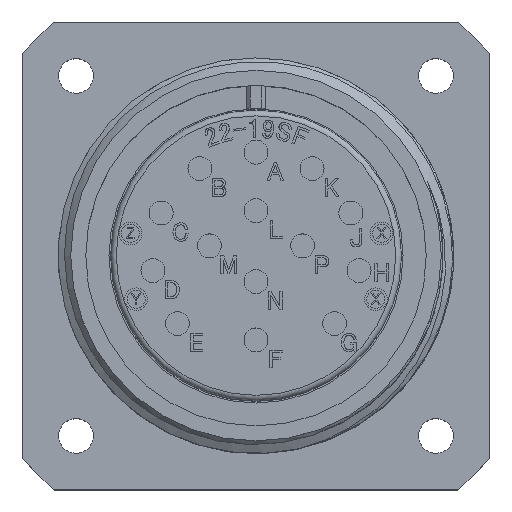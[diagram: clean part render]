
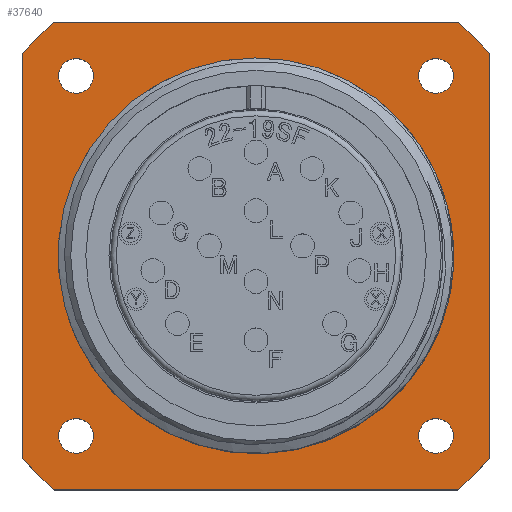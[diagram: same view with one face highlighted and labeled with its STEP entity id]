
A CAD part, top view. The second image highlights one B-rep face of the part: STEP entity #37640.
In plain terms, the highlighted planar face has unit normal (0, 0, 1).
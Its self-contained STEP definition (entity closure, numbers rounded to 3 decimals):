
#383 = CARTESIAN_POINT ( 'NONE',  ( 15.875, 15.875, -19.2 ) ) ;
#1135 = CARTESIAN_POINT ( 'NONE',  ( -15.875, 15.875, -19.2 ) ) ;
#1426 = EDGE_CURVE ( 'NONE', #39204, #32763, #25518, .T. ) ;
#1454 = CARTESIAN_POINT ( 'NONE',  ( 17.44, 0., -19.2 ) ) ;
#1479 = DIRECTION ( 'NONE',  ( -1., 0., 0. ) ) ;
#4427 = VERTEX_POINT ( 'NONE', #45448 ) ;
#4436 = CARTESIAN_POINT ( 'NONE',  ( -20.635, -20.635, -19.2 ) ) ;
#4905 = DIRECTION ( 'NONE',  ( 1., 0., 0. ) ) ;
#4949 = CIRCLE ( 'NONE', #26506, 1.525 ) ;
#5773 = CIRCLE ( 'NONE', #38820, 27.25 ) ;
#6157 = AXIS2_PLACEMENT_3D ( 'NONE', #22194, #41657, #41153 ) ;
#6360 = AXIS2_PLACEMENT_3D ( 'NONE', #383, #12071, #38855 ) ;
#6504 = DIRECTION ( 'NONE',  ( 0., 0., 1. ) ) ;
#7175 = CIRCLE ( 'NONE', #6360, 1.525 ) ;
#7516 = VERTEX_POINT ( 'NONE', #1454 ) ;
#7594 = CARTESIAN_POINT ( 'NONE',  ( -20.635, 17.798, -19.2 ) ) ;
#8206 = ORIENTED_EDGE ( 'NONE', *, *, #41245, .F. ) ;
#8441 = EDGE_CURVE ( 'NONE', #28426, #28426, #4949, .T. ) ;
#8755 = DIRECTION ( 'NONE',  ( 1., 0., 0. ) ) ;
#9524 = ORIENTED_EDGE ( 'NONE', *, *, #19678, .T. ) ;
#9543 = DIRECTION ( 'NONE',  ( 0., 0., -1. ) ) ;
#9577 = VERTEX_POINT ( 'NONE', #15892 ) ;
#10422 = EDGE_CURVE ( 'NONE', #44031, #44031, #37195, .T. ) ;
#10429 = ORIENTED_EDGE ( 'NONE', *, *, #24379, .T. ) ;
#11235 = EDGE_CURVE ( 'NONE', #29008, #29008, #7175, .T. ) ;
#11627 = ORIENTED_EDGE ( 'NONE', *, *, #44331, .T. ) ;
#11725 = EDGE_LOOP ( 'NONE', ( #12127 ) ) ;
#12001 = CARTESIAN_POINT ( 'NONE',  ( -14.35, 15.875, -19.2 ) ) ;
#12071 = DIRECTION ( 'NONE',  ( 0., 0., 1. ) ) ;
#12127 = ORIENTED_EDGE ( 'NONE', *, *, #11235, .F. ) ;
#12327 = ORIENTED_EDGE ( 'NONE', *, *, #1426, .F. ) ;
#12329 = CARTESIAN_POINT ( 'NONE',  ( 17.4, 15.875, -19.2 ) ) ;
#12596 = CARTESIAN_POINT ( 'NONE',  ( 0., 0., -19.2 ) ) ;
#12861 = EDGE_LOOP ( 'NONE', ( #49103 ) ) ;
#13899 = VERTEX_POINT ( 'NONE', #31390 ) ;
#14121 = CIRCLE ( 'NONE', #42148, 27.25 ) ;
#14251 = DIRECTION ( 'NONE',  ( 0., 1., 0. ) ) ;
#14410 = DIRECTION ( 'NONE',  ( 0., -1., 0. ) ) ;
#14583 = ORIENTED_EDGE ( 'NONE', *, *, #37602, .F. ) ;
#14856 = AXIS2_PLACEMENT_3D ( 'NONE', #16450, #27830, #4905 ) ;
#15309 = FACE_BOUND ( 'NONE', #12861, .T. ) ;
#15892 = CARTESIAN_POINT ( 'NONE',  ( 17.798, 20.635, -19.2 ) ) ;
#16450 = CARTESIAN_POINT ( 'NONE',  ( 0., 0., -19.2 ) ) ;
#16900 = CARTESIAN_POINT ( 'NONE',  ( 20.635, -17.798, -19.2 ) ) ;
#17512 = DIRECTION ( 'NONE',  ( 0., 0., -1. ) ) ;
#17752 = CARTESIAN_POINT ( 'NONE',  ( -20.635, 20.635, -19.2 ) ) ;
#18019 = CARTESIAN_POINT ( 'NONE',  ( 17.798, -20.635, -19.2 ) ) ;
#18178 = VERTEX_POINT ( 'NONE', #26718 ) ;
#18628 = LINE ( 'NONE', #4436, #36571 ) ;
#18934 = FACE_BOUND ( 'NONE', #11725, .T. ) ;
#19177 = VECTOR ( 'NONE', #14410, 1000. ) ;
#19189 = AXIS2_PLACEMENT_3D ( 'NONE', #1135, #27892, #31761 ) ;
#19678 = EDGE_CURVE ( 'NONE', #36644, #13899, #32777, .T. ) ;
#21526 = CARTESIAN_POINT ( 'NONE',  ( 0., 0., -19.2 ) ) ;
#21594 = VERTEX_POINT ( 'NONE', #18019 ) ;
#21844 = EDGE_LOOP ( 'NONE', ( #47239 ) ) ;
#21879 = DIRECTION ( 'NONE',  ( 1., 0., 0. ) ) ;
#21998 = VECTOR ( 'NONE', #14251, 1000. ) ;
#22194 = CARTESIAN_POINT ( 'NONE',  ( -15.875, -15.875, -19.2 ) ) ;
#22461 = ORIENTED_EDGE ( 'NONE', *, *, #48071, .F. ) ;
#22505 = FACE_BOUND ( 'NONE', #21844, .T. ) ;
#23065 = VECTOR ( 'NONE', #1479, 1000. ) ;
#23520 = ORIENTED_EDGE ( 'NONE', *, *, #8441, .F. ) ;
#23794 = EDGE_CURVE ( 'NONE', #31489, #31489, #37977, .T. ) ;
#24379 = EDGE_CURVE ( 'NONE', #4427, #21594, #18628, .T. ) ;
#24455 = DIRECTION ( 'NONE',  ( 1., 0., 0. ) ) ;
#24873 = DIRECTION ( 'NONE',  ( 1., 0., 0. ) ) ;
#25518 = CIRCLE ( 'NONE', #42756, 27.25 ) ;
#26144 = DIRECTION ( 'NONE',  ( 0., 0., 1. ) ) ;
#26506 = AXIS2_PLACEMENT_3D ( 'NONE', #40813, #6504, #21879 ) ;
#26718 = CARTESIAN_POINT ( 'NONE',  ( -20.635, -17.798, -19.2 ) ) ;
#26810 = CARTESIAN_POINT ( 'NONE',  ( 0., 0., -19.2 ) ) ;
#26941 = ORIENTED_EDGE ( 'NONE', *, *, #29113, .T. ) ;
#27508 = DIRECTION ( 'NONE',  ( 1., 0., 0. ) ) ;
#27830 = DIRECTION ( 'NONE',  ( 0., 0., 1. ) ) ;
#27892 = DIRECTION ( 'NONE',  ( 0., 0., 1. ) ) ;
#28426 = VERTEX_POINT ( 'NONE', #46681 ) ;
#29008 = VERTEX_POINT ( 'NONE', #12329 ) ;
#29113 = EDGE_CURVE ( 'NONE', #9577, #32763, #32059, .T. ) ;
#29989 = EDGE_LOOP ( 'NONE', ( #23520 ) ) ;
#31390 = CARTESIAN_POINT ( 'NONE',  ( 20.635, 17.798, -19.2 ) ) ;
#31489 = VERTEX_POINT ( 'NONE', #39592 ) ;
#31761 = DIRECTION ( 'NONE',  ( 1., 0., 0. ) ) ;
#32059 = LINE ( 'NONE', #43506, #23065 ) ;
#32070 = FACE_OUTER_BOUND ( 'NONE', #46845, .T. ) ;
#32328 = CARTESIAN_POINT ( 'NONE',  ( 0., 0., -19.2 ) ) ;
#32707 = FACE_BOUND ( 'NONE', #39133, .T. ) ;
#32763 = VERTEX_POINT ( 'NONE', #37769 ) ;
#32777 = LINE ( 'NONE', #40703, #21998 ) ;
#33539 = LINE ( 'NONE', #17752, #19177 ) ;
#34368 = ORIENTED_EDGE ( 'NONE', *, *, #23794, .F. ) ;
#35016 = AXIS2_PLACEMENT_3D ( 'NONE', #26810, #26144, #41907 ) ;
#35050 = CARTESIAN_POINT ( 'NONE',  ( 0., 0., -19.2 ) ) ;
#35063 = DIRECTION ( 'NONE',  ( 1., 0., 0. ) ) ;
#35700 = DIRECTION ( 'NONE',  ( 0., 0., -1. ) ) ;
#36571 = VECTOR ( 'NONE', #35063, 1000. ) ;
#36644 = VERTEX_POINT ( 'NONE', #16900 ) ;
#37195 = CIRCLE ( 'NONE', #19189, 1.525 ) ;
#37602 = EDGE_CURVE ( 'NONE', #36644, #21594, #14121, .T. ) ;
#37640 = ADVANCED_FACE ( 'NONE', ( #15309, #18934, #38089, #32707, #32070, #22505 ), #39539, .T. ) ;
#37769 = CARTESIAN_POINT ( 'NONE',  ( -17.798, 20.635, -19.2 ) ) ;
#37977 = CIRCLE ( 'NONE', #6157, 1.525 ) ;
#38089 = FACE_BOUND ( 'NONE', #29989, .T. ) ;
#38664 = AXIS2_PLACEMENT_3D ( 'NONE', #12596, #46962, #8755 ) ;
#38820 = AXIS2_PLACEMENT_3D ( 'NONE', #21526, #17512, #24873 ) ;
#38855 = DIRECTION ( 'NONE',  ( 1., 0., 0. ) ) ;
#39133 = EDGE_LOOP ( 'NONE', ( #34368 ) ) ;
#39204 = VERTEX_POINT ( 'NONE', #7594 ) ;
#39539 = PLANE ( 'NONE',  #14856 ) ;
#39592 = CARTESIAN_POINT ( 'NONE',  ( -14.35, -15.875, -19.2 ) ) ;
#40294 = CIRCLE ( 'NONE', #38664, 27.25 ) ;
#40703 = CARTESIAN_POINT ( 'NONE',  ( 20.635, 20.635, -19.2 ) ) ;
#40813 = CARTESIAN_POINT ( 'NONE',  ( 15.875, -15.875, -19.2 ) ) ;
#41153 = DIRECTION ( 'NONE',  ( 1., 0., 0. ) ) ;
#41245 = EDGE_CURVE ( 'NONE', #9577, #13899, #40294, .T. ) ;
#41657 = DIRECTION ( 'NONE',  ( 0., 0., 1. ) ) ;
#41907 = DIRECTION ( 'NONE',  ( 1., 0., 0. ) ) ;
#42148 = AXIS2_PLACEMENT_3D ( 'NONE', #35050, #35700, #27508 ) ;
#42756 = AXIS2_PLACEMENT_3D ( 'NONE', #32328, #9543, #24455 ) ;
#43452 = CIRCLE ( 'NONE', #35016, 17.44 ) ;
#43506 = CARTESIAN_POINT ( 'NONE',  ( -20.635, 20.635, -19.2 ) ) ;
#44031 = VERTEX_POINT ( 'NONE', #12001 ) ;
#44331 = EDGE_CURVE ( 'NONE', #39204, #18178, #33539, .T. ) ;
#45448 = CARTESIAN_POINT ( 'NONE',  ( -17.798, -20.635, -19.2 ) ) ;
#46681 = CARTESIAN_POINT ( 'NONE',  ( 17.4, -15.875, -19.2 ) ) ;
#46845 = EDGE_LOOP ( 'NONE', ( #8206, #26941, #12327, #11627, #22461, #10429, #14583, #9524 ) ) ;
#46962 = DIRECTION ( 'NONE',  ( 0., 0., -1. ) ) ;
#47239 = ORIENTED_EDGE ( 'NONE', *, *, #49251, .F. ) ;
#48071 = EDGE_CURVE ( 'NONE', #4427, #18178, #5773, .T. ) ;
#49103 = ORIENTED_EDGE ( 'NONE', *, *, #10422, .F. ) ;
#49251 = EDGE_CURVE ( 'NONE', #7516, #7516, #43452, .T. ) ;
